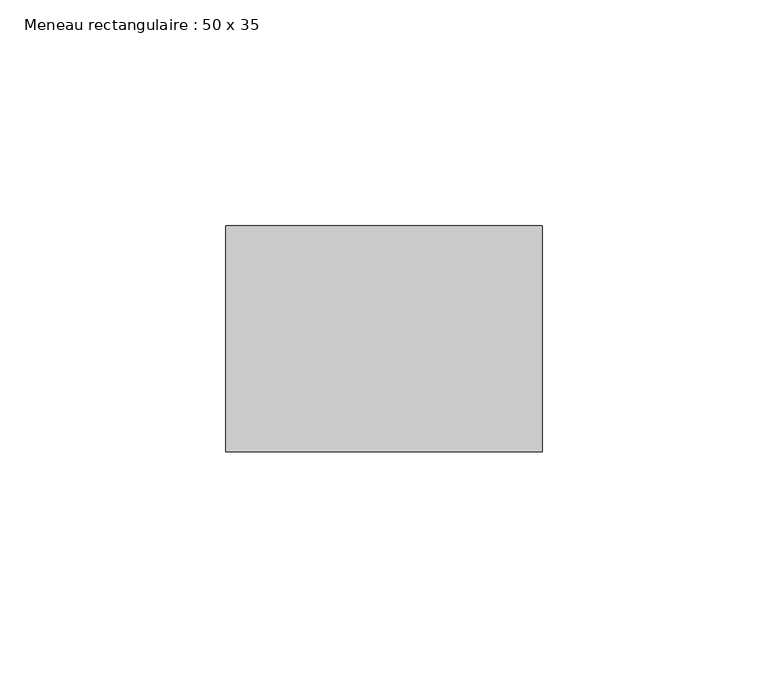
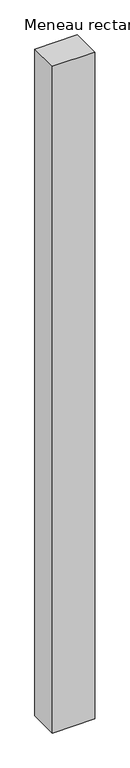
"""IFC4 building model written with IfcOpenShell, lengths in millimetres: member geometry, Meneau rectangulaire : 50 x 35."""

import ifcopenshell
import ifcopenshell.guid

model = None  # the IFC model being written
_history = None  # IfcOwnerHistory: only IFC2X3 demands one
_inside = {}  # id of a spatial element -> (the spatial element, [elements in it])
_under = {}  # id of a project, library or spatial element -> (it, [spatial elements below it])
_declared = {}  # id of a project -> (the project, [libraries it declares])
_typed = {}  # id of a type object -> (the type object, [elements of that type])
_made_of = {}  # id of a material, layer set ... -> (it, [elements and type objects made of it])


def new_model(schema):
    """Start an empty IFC model of exactly this schema.

    Asked for "IFC4X3", IfcOpenShell would pick the latest addendum, in which some entities
    have other attributes; the version numbers below select the first issue.
    IFC2X3 requires an IfcOwnerHistory on every rooted entity: one is made here for all.
    """
    global model, _history
    if schema == "IFC4X3":
        model = ifcopenshell.file(schema_version=(4, 3, 0, 0))
    else:
        model = ifcopenshell.file(schema=schema)
    _inside.clear()
    _under.clear()
    _declared.clear()
    _typed.clear()
    _made_of.clear()
    _history = None
    if model.schema == "IFC2X3":
        org = make("IfcOrganization", Name="unknown")
        user = make(
            "IfcPersonAndOrganization",
            ThePerson=make("IfcPerson", FamilyName="unknown"),
            TheOrganization=org,
        )
        app = make(
            "IfcApplication",
            ApplicationDeveloper=org,
            Version="unknown",
            ApplicationFullName="unknown",
            ApplicationIdentifier="unknown",
        )
        _history = make(
            "IfcOwnerHistory",
            OwningUser=user,
            OwningApplication=app,
            ChangeAction="ADDED",
            CreationDate=0,
        )
    return model


def make(cls, **values):
    """One entity of the class cls with the attributes given. An attribute that is None is left unset."""
    return model.create_entity(
        cls, **{name: value for name, value in values.items() if value is not None}
    )


def rooted(cls, **values):
    """An entity with a GlobalId (a new one), such as an element, a storey or a relation."""
    return make(cls, GlobalId=ifcopenshell.guid.new(), OwnerHistory=_history, **values)


def si_unit(unit_type, name, prefix=None):
    """IfcSIUnit, for example si_unit("LENGTHUNIT", "METRE", prefix="MILLI")."""
    return make("IfcSIUnit", UnitType=unit_type, Prefix=prefix, Name=name)


def assignment(units):
    """IfcUnitAssignment: the units of a project."""
    return None if units is None else make("IfcUnitAssignment", Units=units)


def point(xyz):
    """IfcCartesianPoint."""
    return None if xyz is None else make("IfcCartesianPoint", Coordinates=xyz)


def direction(xyz):
    """IfcDirection."""
    return None if xyz is None else make("IfcDirection", DirectionRatios=xyz)


def frame(location, z_axis=None, x_axis=None):
    """IfcAxis2Placement3D, a coordinate frame: its origin and axes. An axis left out is left unset."""
    return make(
        "IfcAxis2Placement3D",
        Location=point(location),
        Axis=direction(z_axis),
        RefDirection=direction(x_axis),
    )


def origin():
    """The frame at (0, 0, 0) with its axes left unset."""
    return frame((0.0, 0.0, 0.0))


def place(relative_to, where):
    """IfcLocalPlacement: puts the frame where relative to a parent placement (None: the world)."""
    return make(
        "IfcLocalPlacement", PlacementRelTo=relative_to, RelativePlacement=where
    )


def context(
    kind, dimensions, precision=None, world=None, true_north=None, identifier=None
):
    """IfcGeometricRepresentationContext, for example the 3D "Model" context."""
    return make(
        "IfcGeometricRepresentationContext",
        ContextIdentifier=identifier,
        ContextType=kind,
        CoordinateSpaceDimension=dimensions,
        Precision=precision,
        WorldCoordinateSystem=world,
        TrueNorth=true_north,
    )


def project(units=None, contexts=None):
    """IfcProject with its units and contexts."""
    return rooted(
        "IfcProject",
        Name="project",
        RepresentationContexts=contexts,
        UnitsInContext=assignment(units),
    )


def spatial(cls, under=None, at=None, **own):
    """A site, building, storey or space (cls), placed at a placement, below another one or the project."""
    s = rooted(cls, ObjectPlacement=at, **own)
    if under is not None:
        _under.setdefault(under.id(), (under, []))[1].append(s)
    return s


def polyline(points):
    """IfcPolyline through the points."""
    return make("IfcPolyline", Points=[point(p) for p in points])


def outline(outer, holes=None, kind="AREA"):
    """IfcArbitraryClosedProfileDef: a profile drawn as a closed curve; with holes, ...WithVoids."""
    if holes is None:
        return make("IfcArbitraryClosedProfileDef", ProfileType=kind, OuterCurve=outer)
    return make(
        "IfcArbitraryProfileDefWithVoids",
        ProfileType=kind,
        OuterCurve=outer,
        InnerCurves=holes,
    )


def extrude(swept, where, along, depth):
    """IfcExtrudedAreaSolid: the profile swept, set in the frame where, extruded along a direction by depth."""
    return make(
        "IfcExtrudedAreaSolid",
        SweptArea=swept,
        Position=where,
        ExtrudedDirection=direction(along),
        Depth=depth,
    )


def shape(context_of_items, identifier, shape_type, items):
    """IfcShapeRepresentation: the items that make up one representation, for example the "Body"."""
    return make(
        "IfcShapeRepresentation",
        ContextOfItems=context_of_items,
        RepresentationIdentifier=identifier,
        RepresentationType=shape_type,
        Items=items,
    )


def source(mapping_origin, context_of_items, identifier, shape_type, items):
    """IfcRepresentationMap: a shape defined once, which mapped items show again and again."""
    return make(
        "IfcRepresentationMap",
        MappingOrigin=mapping_origin,
        MappedRepresentation=shape(context_of_items, identifier, shape_type, items),
    )


def transform(
    local_origin,
    x_axis=None,
    y_axis=None,
    z_axis=None,
    scale=None,
    scale2=None,
    scale3=None,
    uniform=True,
):
    """IfcCartesianTransformationOperator3D, or its non-uniform kind. x_axis, y_axis, z_axis: its Axis1, 2, 3."""
    if uniform:
        return make(
            "IfcCartesianTransformationOperator3D",
            Axis1=direction(x_axis),
            Axis2=direction(y_axis),
            LocalOrigin=point(local_origin),
            Scale=scale,
            Axis3=direction(z_axis),
        )
    return make(
        "IfcCartesianTransformationOperator3DnonUniform",
        Axis1=direction(x_axis),
        Axis2=direction(y_axis),
        LocalOrigin=point(local_origin),
        Scale=scale,
        Axis3=direction(z_axis),
        Scale2=scale2,
        Scale3=scale3,
    )


def mapped(mapping_source, mapping_target):
    """IfcMappedItem: shows the shape of a source again, moved by a transform."""
    return make(
        "IfcMappedItem", MappingSource=mapping_source, MappingTarget=mapping_target
    )


def made_of(thing, what):
    """Note that an element or type object is made of a material, layer set ...; save() writes the relation."""
    if what is not None:
        _made_of.setdefault(what.id(), (what, []))[1].append(thing)
    return thing


def element(
    cls,
    number,
    at=None,
    inside=None,
    cuts=None,
    type_object=None,
    material=None,
    context=None,
    identifier="Body",
    shape_type=None,
    held_by="IfcProductDefinitionShape",
    body=None,
    shapes=None,
    **own,
):
    """One element of the class cls, such as IfcWall. Its Tag is "e" and its number.

    at: its placement. inside: the storey or other place that contains it. cuts: it is an
    opening in that element (IfcRelVoidsElement). A single representation is given by context,
    identifier, shape_type and body (its items); several are given by shapes. held_by: the class
    of the entity that holds the representations. save() writes the other relations.
    """
    e = rooted(cls, Tag="e%d" % number, ObjectPlacement=at, **own)
    if body is not None:
        shapes = [shape(context, identifier, shape_type, body)]
    if shapes is not None:
        e.Representation = make(held_by, Representations=shapes)
    if inside is not None:
        _inside.setdefault(inside.id(), (inside, []))[1].append(e)
    if cuts is not None:
        rooted(
            "IfcRelVoidsElement", RelatingBuildingElement=cuts, RelatedOpeningElement=e
        )
    if type_object is not None:
        _typed.setdefault(type_object.id(), (type_object, []))[1].append(e)
    return made_of(e, material)


def aggregate(whole, parts):
    """IfcRelAggregates: a whole, such as a stair, and the parts it consists of."""
    return rooted("IfcRelAggregates", RelatingObject=whole, RelatedObjects=parts)


def save(model, path):
    """Write the relations noted so far, then the file.

    IfcRelAggregates (storeys below a building ...), IfcRelContainedInSpatialStructure (elements
    in a storey), IfcRelDefinesByType, IfcRelAssociatesMaterial and IfcRelDeclares: one each for
    every whole, place, type object, material and project.
    """
    for whole, parts in _under.values():
        aggregate(whole, parts)
    for where, things in _inside.values():
        rooted(
            "IfcRelContainedInSpatialStructure",
            RelatedElements=things,
            RelatingStructure=where,
        )
    for kind, things in _typed.values():
        rooted("IfcRelDefinesByType", RelatedObjects=things, RelatingType=kind)
    for what, things in _made_of.values():
        rooted("IfcRelAssociatesMaterial", RelatedObjects=things, RelatingMaterial=what)
    for by, libraries in _declared.values():
        rooted("IfcRelDeclares", RelatingContext=by, RelatedDefinitions=libraries)
    model.write(path)


def meneau_rectangulaire_50_x_35_be8a11dc(model_context):
    return source(origin(), model_context, "Body", "SweptSolid", [
        extrude(outline(polyline([(35.0, 0.0), (35.0, -50.0), (-35.0, -50.0), (-35.0, 0.0), (35.0, 0.0)])), frame((0.0, 0.0, -1162.7245593), z_axis=(0.0, 0.0, 1.0), x_axis=(1.0, 0.0, 0.0)), (0.0, 0.0, 1.0), 1162.7245593),
    ])


if __name__ == "__main__":
    model = new_model("IFC4")
    model_context = context("Model", 3, world=origin())
    ifc_project = project(units=[si_unit("LENGTHUNIT", "METRE", prefix="MILLI")], contexts=[model_context])
    site = spatial("IfcSite", under=ifc_project)
    building = spatial("IfcBuilding", under=site)
    placement = place(None, origin())
    meneau_rectangulaire_50_x_35_shape = meneau_rectangulaire_50_x_35_be8a11dc(model_context)
    element("IfcMember", 1, ObjectType="Meneau rectangulaire : 50 x 35", at=placement, inside=building, context=model_context, shape_type="MappedRepresentation", body=[
        mapped(meneau_rectangulaire_50_x_35_shape, transform((0.0, 0.0, 0.0), x_axis=(1.0, 0.0, 0.0), y_axis=(0.0, 1.0, 0.0), z_axis=(0.0, 0.0, 1.0))),
    ])
    save(model, "model.ifc")
